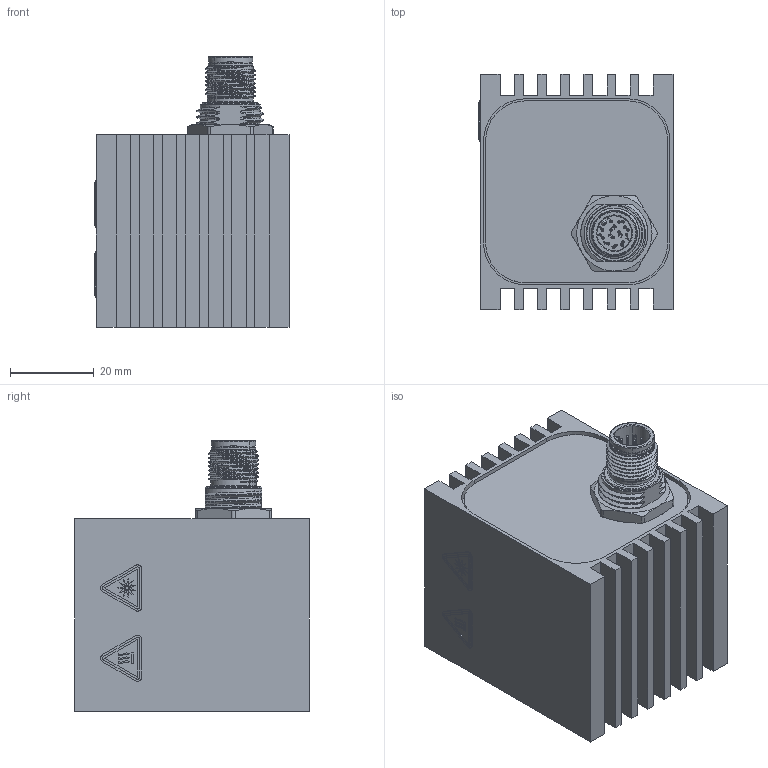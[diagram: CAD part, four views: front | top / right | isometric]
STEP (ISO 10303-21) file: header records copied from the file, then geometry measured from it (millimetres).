
FILE_DESCRIPTION (( 'STEP AP214' ), '1' );
FILE_NAME ('02541.00 Basisbaugruppe-SL (power vision) step09112020.STEP', '2020-11-09T10:56:51', ( '' ), ( '' ), 'SwSTEP 2.0', 'SolidWorks 2013', '' );
FILE_SCHEMA (( 'AUTOMOTIVE_DESIGN' ));
Length unit declared in the file: millimetre
Products named in the file (1): 02541.00 Basisbaugruppe-SL (power vision) step09112020
Bounding box: 46.3 x 56 x 64.6 mm (x, y, z)
Volume: 65023.8 mm3; surface area: 35493.8 mm2
Topology: 7 solids, 7 shells, 1079 faces, 2995 edges, 1931 vertices
Faces by surface type: plane 442, bspline 317, cylinder 265, cone 55
Entity records: 55469 total; most frequent: CARTESIAN_POINT 18978, ORIENTED_EDGE 5766, DIRECTION 3956, EDGE_CURVE 2883, VERTEX_POINT 1931, VECTOR 1404, LINE 1404, AXIS2_PLACEMENT_3D 1276
